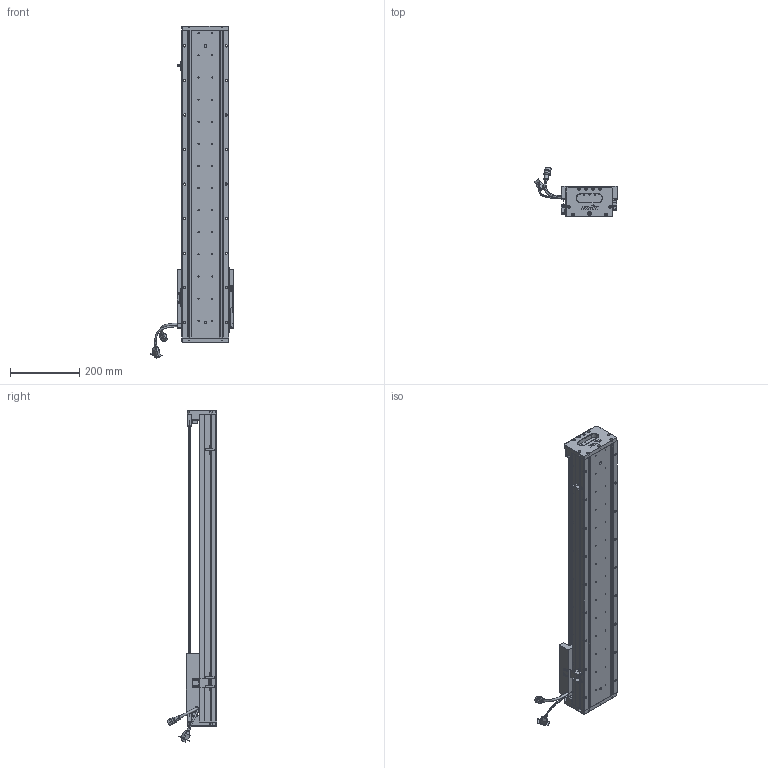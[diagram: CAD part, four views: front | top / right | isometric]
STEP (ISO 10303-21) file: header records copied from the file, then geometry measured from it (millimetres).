
FILE_DESCRIPTION (( 'STEP AP203' ), '1' );
FILE_NAME ('Z2-RY140D-1-L500-B-K.SLDASM_0650.step', '2021-05-17T07:45:11', ( '盈信电脑' ), ( '东莞市道滘镇水果街19号' ), 'SwSTEP 2.0', 'SolidWorks 2016', '' );
FILE_SCHEMA (( 'CONFIG_CONTROL_DESIGN' ));
Length unit declared in the file: millimetre
Products named in the file (36): SHIELDPLATE; Z2-RY140-L500詩湍100mm遵_0650; Z-140詩湍傷裔啣; SCREW-M1.7-1; Z-RY140詩湍狟揤裔; Z2-RY140圉猾敕臏賑輸(21遴); PSLH080_PSLF2; SCREW-M1.6-1; SCALE-Part-1; SCREW-M1.6-3; 140雄赽晤鎢ん堤盄; HOLDER0; SEAL-Part-1; 140-Z-臏賑輸盄裔(21遴); LABEL-Part-1; 140蚥薯蝶輸; COVER; Z-RY140感应器672光电感应片; Z2-RY140-L500直线电机模组底座_0650; COVER-Part-1; SCALE; SCREW-M1.7; HARNESS; SCREW-M1.6; PBU_SHEET; SEAL; LABEL; SCREW-M1.6-2; 080黍杅芛假蚾釱21遴; HARNESS-Part-1; HARNESS-Part-2; Z2-RY140D-1-L500-B-K.SLDASM_0650; 榋妏寠巭燃_暯_M2_2; SCALE-Part-2; 覜茼ん672; Z-RY140詩湍奻揤裔
Assembly tree (41 placements, depth 4):
  Z2-RY140D-1-L500-B-K.SLDASM_0650
    Z2-RY140-L500直线电机模组底座_0650
    Z-RY140感应器672光电感应片
    Z2-RY140圉猾敕臏賑輸(21遴)
    覜茼ん672  x3
    Z2-RY140-L500詩湍100mm遵_0650
    PSLH080_PSLF2
      SCALE
        SCALE-Part-1
        SCALE-Part-2
      HARNESS
        HARNESS-Part-1
        HARNESS-Part-2
      LABEL
        LABEL-Part-1
      COVER
        COVER-Part-1
      SEAL
        SEAL-Part-1
      榋妏寠巭燃_暯_M2_2
      SHIELDPLATE
      SCREW-M1.7
      SCREW-M1.7-1
      PBU_SHEET
      SCREW-M1.6
      SCREW-M1.6-1
      SCREW-M1.6-2
      SCREW-M1.6-3
      HOLDER0
    080黍杅芛假蚾釱21遴
    140-Z-臏賑輸盄裔(21遴)
    Z-140詩湍傷裔啣  x2
    Z-RY140詩湍狟揤裔  x2
    Z-RY140詩湍奻揤裔  x2
    140蚥薯蝶輸  x2
    140雄赽晤鎢ん堤盄
Bounding box: 239.84 x 143.77 x 960.88 mm (x, y, z)
Volume: 3526892.8 mm3; surface area: 926464.9 mm2
Topology: 36 solids, 36 shells, 2868 faces, 7544 edges, 4779 vertices
Faces by surface type: cylinder 1334, plane 1128, cone 274, torus 79, bspline 53
Entity records: 83620 total; most frequent: CARTESIAN_POINT 21015, ORIENTED_EDGE 12248, DIRECTION 12176, EDGE_CURVE 6124, AXIS2_PLACEMENT_3D 4476, VERTEX_POINT 3947, LINE 3224, VECTOR 3224
